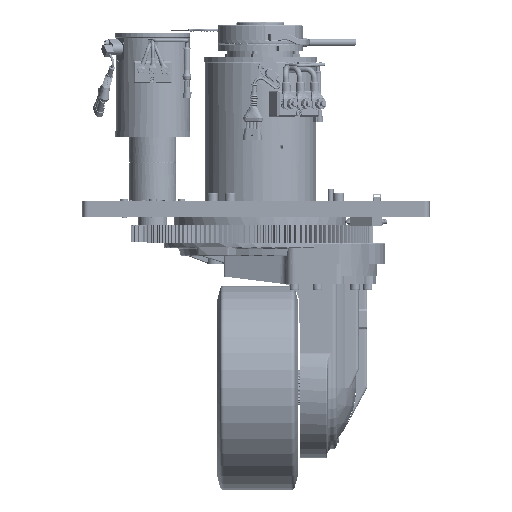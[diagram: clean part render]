
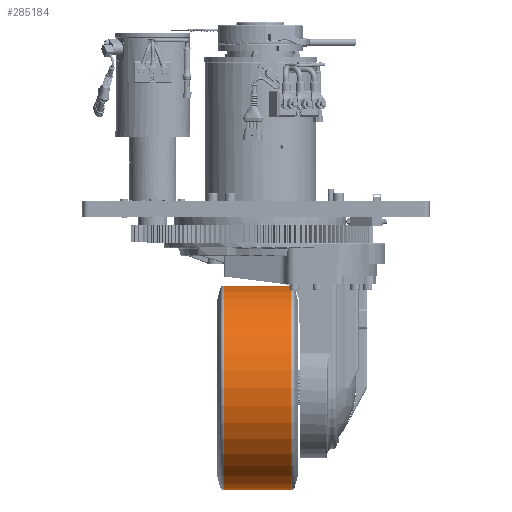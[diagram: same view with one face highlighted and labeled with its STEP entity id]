
A CAD part, front view. The second image highlights one B-rep face of the part: STEP entity #285184.
In plain terms, the highlighted cylindrical face has radius 175 mm (diameter 350 mm), a full revolution.
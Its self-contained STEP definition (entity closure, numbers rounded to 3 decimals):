
#21961=CYLINDRICAL_SURFACE('',#302291,175.);
#28942=LINE('',#419926,#53585);
#53585=VECTOR('',#336055,175.);
#77441=FACE_OUTER_BOUND('',#93052,.T.);
#93052=EDGE_LOOP('',(#200142,#200143,#200144,#200145));
#110135=CIRCLE('',#302290,175.);
#110136=CIRCLE('',#302292,175.);
#124576=VERTEX_POINT('',#419921);
#124577=VERTEX_POINT('',#419925);
#153518=EDGE_CURVE('',#124576,#124576,#110135,.T.);
#153519=EDGE_CURVE('',#124576,#124577,#28942,.T.);
#153520=EDGE_CURVE('',#124577,#124577,#110136,.T.);
#200142=ORIENTED_EDGE('',*,*,#153518,.F.);
#200143=ORIENTED_EDGE('',*,*,#153519,.T.);
#200144=ORIENTED_EDGE('',*,*,#153520,.T.);
#200145=ORIENTED_EDGE('',*,*,#153519,.F.);
#285184=ADVANCED_FACE('',(#77441),#21961,.T.);
#302290=AXIS2_PLACEMENT_3D('',#419923,#336051,#336052);
#302291=AXIS2_PLACEMENT_3D('',#419924,#336053,#336054);
#302292=AXIS2_PLACEMENT_3D('',#419927,#336056,#336057);
#336051=DIRECTION('center_axis',(1.,0.,0.));
#336052=DIRECTION('ref_axis',(0.,0.,
-1.));
#336053=DIRECTION('center_axis',(1.,0.,0.));
#336054=DIRECTION('ref_axis',(0.,0.,
-1.));
#336055=DIRECTION('',(-1.,0.,0.));
#336056=DIRECTION('center_axis',(1.,0.,0.));
#336057=DIRECTION('ref_axis',(0.,0.,
-1.));
#419921=CARTESIAN_POINT('',(40.477,0.,-78.));
#419923=CARTESIAN_POINT('Origin',(40.477,0.,
-253.));
#419924=CARTESIAN_POINT('Origin',(-17.55,0.,
-253.));
#419925=CARTESIAN_POINT('',(-75.577,0.,-78.));
#419926=CARTESIAN_POINT('',(-17.55,0.,-78.));
#419927=CARTESIAN_POINT('Origin',(-75.577,0.,
-253.));
